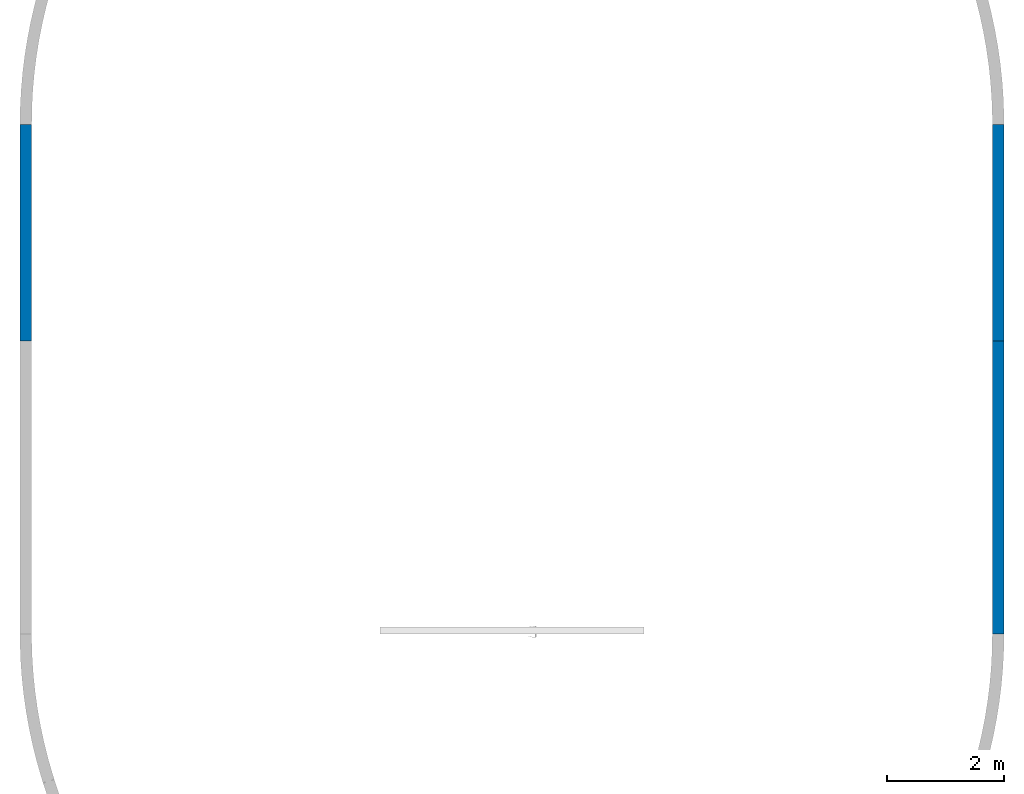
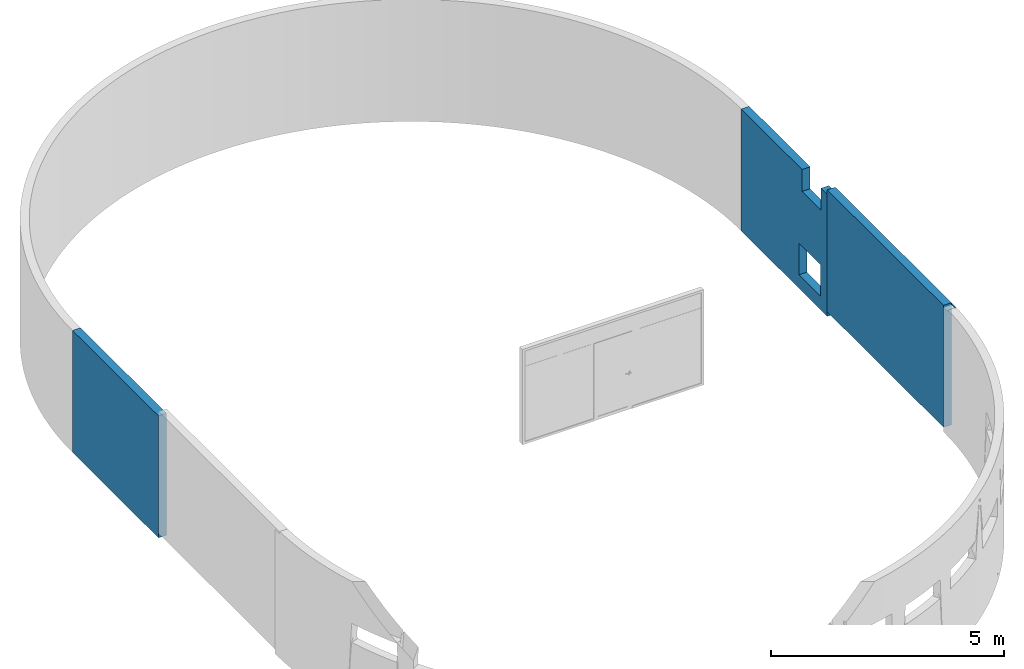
# One storey, part 2 of 3: 3 walls, 2 openings.
"""IFC4 building model written with IfcOpenShell, lengths in millimetres."""

from ifc_helpers import new_model, entity, si_unit, converted_unit, derived_unit, direction, frame, origin_with_axes, place, context, subcontext, project, spatial, polygons, material, constituent, constituent_set, type_object, element, save


model = new_model("IFC4")

# Units and contexts
model_context = context("Model", 3, precision=0.01, world=origin_with_axes(), true_north=direction((0.0, 1.0)))
body_context = subcontext(model_context, "Body", "Model", "MODEL_VIEW")
ifc_project = project(units=[si_unit("LENGTHUNIT", "METRE", prefix="MILLI"), si_unit("AREAUNIT", "SQUARE_METRE"), si_unit("VOLUMEUNIT", "CUBIC_METRE"), converted_unit("PLANEANGLEUNIT", "DEGREE", entity("IfcPlaneAngleMeasure", 0.0174532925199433), si_unit("PLANEANGLEUNIT", "RADIAN"), dimensions=[0, 0, 0, 0, 0, 0, 0]), converted_unit("TIMEUNIT", "Year", entity("IfcTimeMeasure", 31557600.0), si_unit("TIMEUNIT", "SECOND"), dimensions=[0, 0, 1, 0, 0, 0, 0]), si_unit("MASSUNIT", "GRAM", prefix="KILO"), si_unit("THERMODYNAMICTEMPERATUREUNIT", "DEGREE_CELSIUS"), si_unit("LUMINOUSINTENSITYUNIT", "LUMEN"), si_unit("ENERGYUNIT", "JOULE", prefix="MEGA"), derived_unit("THERMALCONDUCTANCEUNIT", [(si_unit("POWERUNIT", "WATT"), 1), (si_unit("LENGTHUNIT", "METRE"), -1), (si_unit("THERMODYNAMICTEMPERATUREUNIT", "KELVIN"), -1)]), derived_unit("SPECIFICHEATCAPACITYUNIT", [(si_unit("ENERGYUNIT", "JOULE"), 1), (si_unit("MASSUNIT", "GRAM", prefix="KILO"), -1), (si_unit("THERMODYNAMICTEMPERATUREUNIT", "KELVIN"), -1)]), derived_unit("MASSDENSITYUNIT", [(si_unit("MASSUNIT", "GRAM", prefix="KILO"), 1), (si_unit("VOLUMEUNIT", "CUBIC_METRE"), -1)])], contexts=[model_context])

# Site, building, storey
site_placement = place(None, origin_with_axes())
site = spatial("IfcSite", under=ifc_project, at=site_placement, Name="Exteriér", CompositionType="ELEMENT")
building_placement = place(site_placement, origin_with_axes())
building = spatial("IfcBuilding", under=site, at=building_placement, Name="Univerzitní lezecké centrum", CompositionType="ELEMENT")
storey_placement = place(building_placement, frame((0.0, 0.0, 6400.0), z_axis=(0.0, 0.0, 1.0), x_axis=(1.0, 0.0, 0.0)))
storey = spatial("IfcBuildingStorey", under=building, at=storey_placement, Name="3.NP", CompositionType="ELEMENT", Elevation=6400.0)

# Walls
ifc_material = material(Name="Tepelná izolace - minerální vata - obvodová izolace")
ifc_constituent_1 = constituent(ifc_material, Name="Tepelná izolace - minerální vata - obvodová izolace")
ifc_constituent_set_1 = constituent_set(constituents=[ifc_constituent_1], Name="Obvodová tepelná izolace")
wall_type = type_object("IfcWallType", Name="Obvodová tepelná izolace 200", PredefinedType="NOTDEFINED")
wall_1_placement = place(storey_placement, frame((10649.85164885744, 4699.999999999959, 0.0), z_axis=(0.0, 0.0, 1.0), x_axis=(0.0, -1.0, 0.0)))
element("IfcWall", 1, at=wall_1_placement, inside=storey, type_object=wall_type, material=ifc_constituent_set_1, Name="St01", PredefinedType="NOTDEFINED", context=body_context, shape_type="Tessellation", body=[
    polygons([(5000.000000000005, 0.0, 3200.000000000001), (5000.000000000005, 199.9999999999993, 3200.000000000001), (0.0, 200.0000000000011, 3200.000000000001), (0.0, 0.0, 3200.000000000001), (5000.000000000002, 0.0, 3149.000000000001), (5000.000000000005, 199.9999999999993, 3149.000000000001), (5200.000000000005, 199.9999999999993, 3200.000000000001), (5200.000000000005, 199.9999869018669, 3149.000000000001), (5000.0, 199.9999869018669, 0.0), (0.0, 199.9999999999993, 0.0), (0.0, 0.0, 0.0), (5000.0, 0.0, 0.0), (5200.000000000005, 197.3671777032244, 3200.000000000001), (5200.000000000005, 197.3671777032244, 3149.000000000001)], [[[1, 2, 3, 4]], [[2, 1, 5, 6]], [[3, 2, 7, 8, 6, 9, 10]], [[10, 11, 4, 3]], [[5, 1, 4, 11, 12]], [[6, 5, 12, 9]], [[13, 2, 6, 14]], [[2, 13, 7]], [[13, 14, 8, 7]], [[14, 6, 8]], [[10, 9, 12, 11]]], closed=True),
])
ifc_constituent_2 = constituent(ifc_material, Name="Tepelná izolace - minerální vata - obvodová izolace")
ifc_constituent_set_2 = constituent_set(constituents=[ifc_constituent_2], Name="Obvodová tepelná izolace")
wall_2_placement = place(storey_placement, frame((-5750.148351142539, 8400.000000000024, -120.000000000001), z_axis=(0.0, 0.0, 1.0), x_axis=(0.0, -1.0, 0.0)))
element("IfcWall", 2, at=wall_2_placement, inside=storey, type_object=wall_type, material=ifc_constituent_set_2, Name="St01", PredefinedType="NOTDEFINED", context=body_context, shape_type="Tessellation", body=[
    polygons([(3700.000000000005, 0.0, 0.0), (3700.000000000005, -200.0000000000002, 0.0), (0.0, -200.0000000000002, 0.0), (0.0, 0.0, 0.0), (3700.000000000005, 0.0, 3200.000000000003), (3700.000000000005, -200.0000000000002, 3200.000000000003), (0.0, -200.0000000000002, 3200.000000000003), (0.0, 0.0, 3200.000000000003)], [[[1, 2, 3, 4]], [[1, 5, 6, 2]], [[2, 6, 7, 3]], [[4, 3, 7, 8]], [[5, 1, 4, 8]], [[6, 5, 8, 7]]], closed=True),
])

# Wall, openings
ifc_constituent_3 = constituent(ifc_material, Name="Tepelná izolace - minerální vata - obvodová izolace")
ifc_constituent_set_3 = constituent_set(constituents=[ifc_constituent_3], Name="Obvodová tepelná izolace")
wall_3_placement = place(storey_placement, frame((10649.85164885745, 8399.999999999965, -120.000000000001), z_axis=(0.0, 0.0, 1.0), x_axis=(0.0, -1.0, 0.0)))
wall_3 = element("IfcWall", 3, at=wall_3_placement, inside=storey, type_object=wall_type, material=ifc_constituent_set_3, Name="St01", PredefinedType="NOTDEFINED", context=body_context, shape_type="Tessellation", body=[
    polygons([(2619.196412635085, 0.0, 3200.000000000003), (2619.196412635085, 199.9999999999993, 3200.000000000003), (0.0, 200.0000000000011, 3200.000000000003), (0.0, 0.0, 3200.000000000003), (2619.196412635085, 199.9999999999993, 2625.668009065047), (2619.196412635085, 0.0, 2625.668009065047), (3429.669165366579, 199.9999999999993, 2625.668009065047), (3429.669165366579, 199.9999999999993, 3200.000000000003), (3700.000000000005, 199.9999999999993, 3200.000000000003), (3700.000000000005, 199.9999999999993, 0.0), (0.0, 199.9999999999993, 0.0), (3412.756469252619, 199.9999999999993, 353.2574874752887), (3412.756469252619, 199.9999999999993, 1183.257487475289), (2482.756469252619, 199.9999999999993, 1183.257487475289), (2482.756469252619, 199.9999999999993, 353.2574874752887), (0.0, 0.0, 0.0), (3700.000000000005, 0.0, 0.0), (3700.000000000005, 0.0, 3200.000000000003), (3429.669165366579, 0.0, 3200.000000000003), (3429.669165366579, 0.0, 2625.668009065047), (3412.756469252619, 0.0, 353.2574874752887), (2482.756469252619, 0.0, 353.2574874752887), (2482.756469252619, 0.0, 1183.257487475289), (3412.756469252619, 0.0, 1183.257487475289)], [[[1, 2, 3, 4]], [[5, 2, 1, 6]], [[7, 8, 9, 10, 11, 3, 2, 5], [12, 13, 14, 15]], [[16, 4, 3, 11]], [[6, 1, 4, 16, 17, 18, 19, 20], [21, 22, 23, 24]], [[7, 5, 6, 20]], [[19, 8, 7, 20]], [[8, 19, 18, 9]], [[9, 18, 17, 10]], [[11, 10, 17, 16]], [[13, 12, 21, 24]], [[14, 13, 24, 23]], [[15, 14, 23, 22]], [[12, 15, 22, 21]]], closed=True),
])
opening_1_placement = place(wall_3_placement, frame((8399.999999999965, -10649.85164885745, -6279.999999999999), z_axis=(0.0, 0.0, 1.0), x_axis=(0.0, 1.0, 0.0)))
element("IfcOpeningElement", 4, at=opening_1_placement, cuts=wall_3, Name="Pr02", PredefinedType="NOTDEFINED", context=body_context, identifier="Reference", shape_type="Tessellation", body=[
    polygons([(10449.85164885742, 5917.243530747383, 6633.257487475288), (10449.85164885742, 5917.243530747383, 7463.257487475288), (11049.85164885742, 5917.243530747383, 7463.257487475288), (11049.85164885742, 5917.243530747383, 6633.257487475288), (10449.85164885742, 4987.243530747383, 6633.257487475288), (10449.85164885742, 4987.243530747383, 7463.257487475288), (11049.85164885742, 4987.243530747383, 7463.257487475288), (11049.85164885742, 4987.243530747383, 6633.257487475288)], [[[1, 2, 3, 4]], [[1, 5, 6, 2]], [[2, 6, 7, 3]], [[4, 3, 7, 8]], [[5, 1, 4, 8]], [[6, 5, 8, 7]]], closed=True),
])
opening_2_placement = place(wall_3_placement, frame((8399.999999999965, -10649.85164885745, -6279.999999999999), z_axis=(0.0, 0.0, 1.0), x_axis=(0.0, 1.0, 0.0)))
element("IfcOpeningElement", 5, at=opening_2_placement, cuts=wall_3, Name="Pr03", PredefinedType="NOTDEFINED", context=body_context, identifier="Reference", shape_type="Tessellation", body=[
    polygons([(10449.85164885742, 5780.803587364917, 8905.668009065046), (10449.85164885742, 5780.803587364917, 9480.668009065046), (11049.85164885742, 5780.803587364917, 9480.668009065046), (11049.85164885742, 5780.803587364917, 8905.668009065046), (10449.85164885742, 4970.330834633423, 8905.668009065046), (10449.85164885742, 4970.330834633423, 9480.668009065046), (11049.85164885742, 4970.330834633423, 9480.668009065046), (11049.85164885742, 4970.330834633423, 8905.668009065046)], [[[1, 2, 3, 4]], [[1, 5, 6, 2]], [[2, 6, 7, 3]], [[4, 3, 7, 8]], [[5, 1, 4, 8]], [[6, 5, 8, 7]]], closed=True),
])

save(model, "model.ifc")
